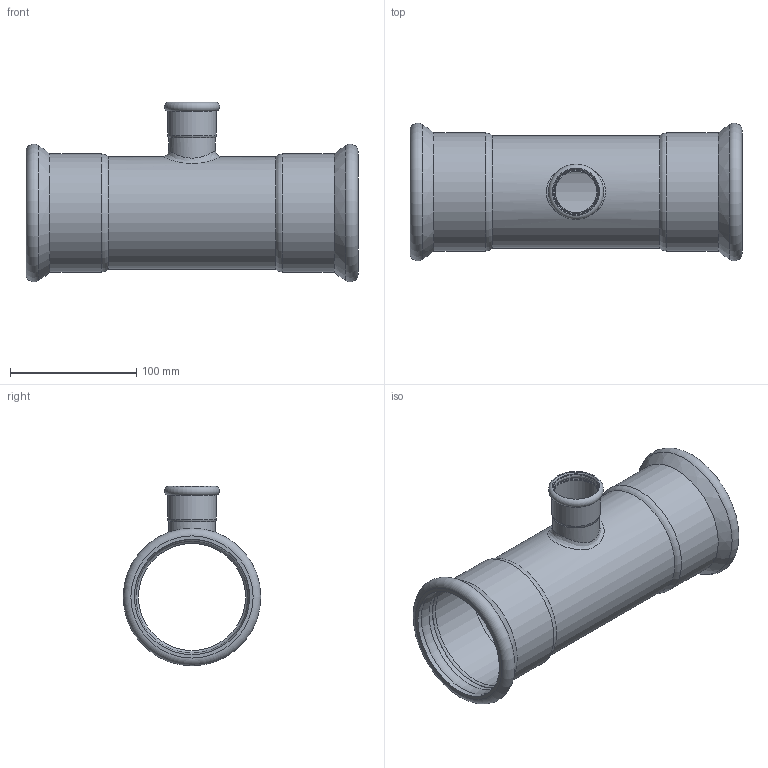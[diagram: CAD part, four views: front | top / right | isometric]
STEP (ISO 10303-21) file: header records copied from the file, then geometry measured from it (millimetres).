
FILE_DESCRIPTION(/* description */ ('TEE RIDOTTO 88,9-35-88,9'),/* implementation_level */ '2;1');
FILE_NAME(/* name */ 'T:\A_ARTICOLI\ARTICOLI PRODOTTI_WEB\Articoli_STEELPRES_WEB\Temporary Step\392088035_Steelpres.ipt.step',/* time_stamp */ '2016-01-19T16:43:11+01:00',/* author */ ('Ghirlinghelli Diego'),/* organization */ (''),/* preprocessor_version */ 'ST-DEVELOPER v15.2',/* originating_system */ 'Autodesk Inventor 2014',/* authorisation */ 'R.M. S.p.A. si riserva a termini di legge la proprietà del presente disegno con divieto di riprodurlo o comunicarlo a terzi senza sua autorizzazione scritta');
FILE_SCHEMA (('AUTOMOTIVE_DESIGN { 1 0 10303 214 3 1 1 }'));
Length unit declared in the file: millimetre
Products named in the file (1): 392088035_Steelpres
Bounding box: 263 x 109 x 142.25 mm (x, y, z)
Volume: 212786.1 mm3; surface area: 163931.2 mm2
Topology: 1 solids, 1 shells, 42 faces, 96 edges, 57 vertices
Faces by surface type: cylinder 17, torus 15, bspline 4, cone 3, plane 3
Full cylindrical faces by diameter (mm): 33 x1, 34 x1, 35.4 x1, 35.8 x2, 37 x1, 38.4 x1, 84.9 x1, 88.9 x1, 89.5 x2, 91.3 x4, 93.5 x2
Entity records: 1410 total; most frequent: CARTESIAN_POINT 635, DIRECTION 168, ORIENTED_EDGE 102, AXIS2_PLACEMENT_3D 84, EDGE_LOOP 82, EDGE_CURVE 51, VERTEX_POINT 47, CIRCLE 45
